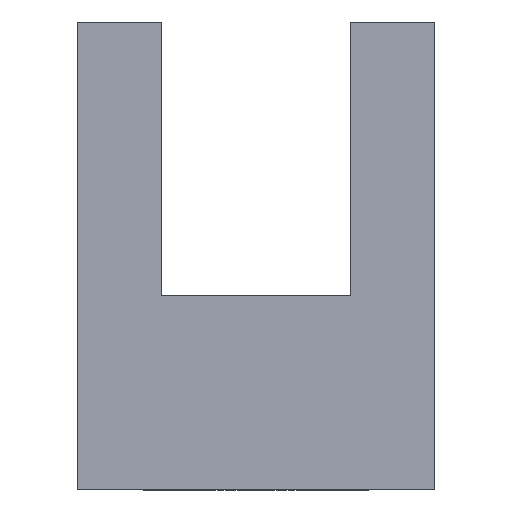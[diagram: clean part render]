
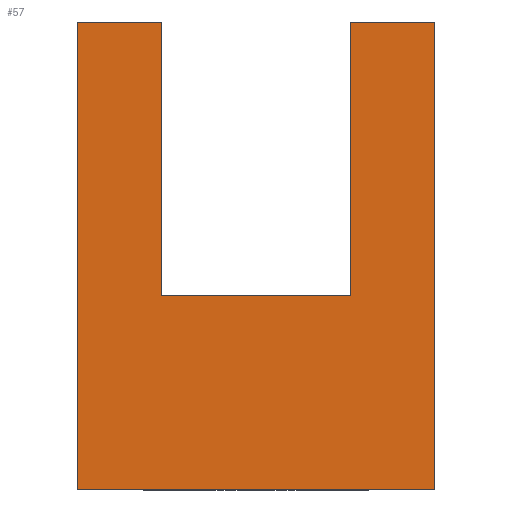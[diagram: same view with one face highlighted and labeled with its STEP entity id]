
A CAD part, left-side view. The second image highlights one B-rep face of the part: STEP entity #57.
In plain terms, the highlighted planar face has unit normal (-1, 0, 0).
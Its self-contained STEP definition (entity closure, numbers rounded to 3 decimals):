
#21 = EDGE_CURVE('',#22,#24,#26,.T.);
#22 = VERTEX_POINT('',#23);
#23 = CARTESIAN_POINT('',(0.,0.,0.));
#24 = VERTEX_POINT('',#25);
#25 = CARTESIAN_POINT('',(0.,0.,22.25));
#26 = LINE('',#27,#28);
#27 = CARTESIAN_POINT('',(0.,0.,0.));
#28 = VECTOR('',#29,1.);
#29 = DIRECTION('',(0.,0.,1.));
#57 = ADVANCED_FACE('',(#58),#115,.F.);
#58 = FACE_BOUND('',#59,.F.);
#59 = EDGE_LOOP('',(#60,#68,#76,#84,#92,#100,#108,#114));
#60 = ORIENTED_EDGE('',*,*,#61,.F.);
#61 = EDGE_CURVE('',#62,#22,#64,.T.);
#62 = VERTEX_POINT('',#63);
#63 = CARTESIAN_POINT('',(0.,17.,0.));
#64 = LINE('',#65,#66);
#65 = CARTESIAN_POINT('',(0.,17.,0.));
#66 = VECTOR('',#67,1.);
#67 = DIRECTION('',(0.,-1.,0.));
#68 = ORIENTED_EDGE('',*,*,#69,.T.);
#69 = EDGE_CURVE('',#62,#70,#72,.T.);
#70 = VERTEX_POINT('',#71);
#71 = CARTESIAN_POINT('',(0.,17.,22.25));
#72 = LINE('',#73,#74);
#73 = CARTESIAN_POINT('',(0.,17.,0.));
#74 = VECTOR('',#75,1.);
#75 = DIRECTION('',(0.,0.,1.));
#76 = ORIENTED_EDGE('',*,*,#77,.T.);
#77 = EDGE_CURVE('',#70,#78,#80,.T.);
#78 = VERTEX_POINT('',#79);
#79 = CARTESIAN_POINT('',(0.,13.,22.25));
#80 = LINE('',#81,#82);
#81 = CARTESIAN_POINT('',(0.,17.,22.25));
#82 = VECTOR('',#83,1.);
#83 = DIRECTION('',(0.,-1.,0.));
#84 = ORIENTED_EDGE('',*,*,#85,.F.);
#85 = EDGE_CURVE('',#86,#78,#88,.T.);
#86 = VERTEX_POINT('',#87);
#87 = CARTESIAN_POINT('',(0.,13.,9.25));
#88 = LINE('',#89,#90);
#89 = CARTESIAN_POINT('',(0.,13.,9.25));
#90 = VECTOR('',#91,1.);
#91 = DIRECTION('',(0.,0.,1.));
#92 = ORIENTED_EDGE('',*,*,#93,.F.);
#93 = EDGE_CURVE('',#94,#86,#96,.T.);
#94 = VERTEX_POINT('',#95);
#95 = CARTESIAN_POINT('',(0.,4.,9.25));
#96 = LINE('',#97,#98);
#97 = CARTESIAN_POINT('',(0.,4.,9.25));
#98 = VECTOR('',#99,1.);
#99 = DIRECTION('',(0.,1.,0.));
#100 = ORIENTED_EDGE('',*,*,#101,.F.);
#101 = EDGE_CURVE('',#102,#94,#104,.T.);
#102 = VERTEX_POINT('',#103);
#103 = CARTESIAN_POINT('',(0.,4.,22.25));
#104 = LINE('',#105,#106);
#105 = CARTESIAN_POINT('',(0.,4.,22.25));
#106 = VECTOR('',#107,1.);
#107 = DIRECTION('',(0.,0.,-1.));
#108 = ORIENTED_EDGE('',*,*,#109,.T.);
#109 = EDGE_CURVE('',#102,#24,#110,.T.);
#110 = LINE('',#111,#112);
#111 = CARTESIAN_POINT('',(0.,17.,22.25));
#112 = VECTOR('',#113,1.);
#113 = DIRECTION('',(0.,-1.,0.));
#114 = ORIENTED_EDGE('',*,*,#21,.F.);
#115 = PLANE('',#116);
#116 = AXIS2_PLACEMENT_3D('',#117,#118,#119);
#117 = CARTESIAN_POINT('',(0.,17.,0.));
#118 = DIRECTION('',(1.,0.,0.));
#119 = DIRECTION('',(0.,-1.,0.));
